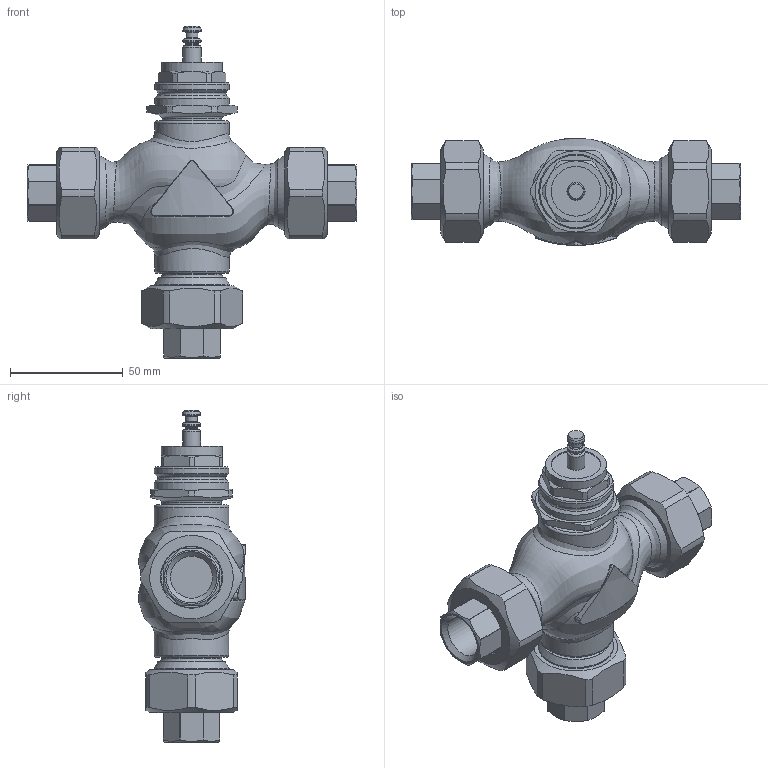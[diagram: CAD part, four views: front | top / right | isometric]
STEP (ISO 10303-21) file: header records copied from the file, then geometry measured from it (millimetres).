
FILE_DESCRIPTION(/* description */ (''),/* implementation_level */ '2;1');
FILE_NAME(/* name */ 'rv111s_dn15_3_T.stp',/* time_stamp */ '2012-02-28T10:24:51+01:00',/* author */ ('KLIMES'),/* organization */ ('LDM'),/* preprocessor_version */ 'ST-DEVELOPER v11',/* originating_system */ 'SIEMENS PLM Software NX 7.0',/* authorisation */ '');
FILE_SCHEMA (('CONFIG_CONTROL_DESIGN'));
Length unit declared in the file: millimetre
Products named in the file (1): klimEAFB3d31
Bounding box: 146 x 47.4 x 147.05 mm (x, y, z)
Volume: 230361.9 mm3; surface area: 54252.3 mm2
Topology: 10 solids, 10 shells, 269 faces, 645 edges, 418 vertices
Faces by surface type: plane 124, cylinder 74, cone 36, bspline 22, torus 13
Full cylindrical faces by diameter (mm): 5.3 x1, 5.5 x1, 8 x3, 18.631 x3, 21 x3, 21.5 x3, 22 x1, 26.5 x2, 27 x4, 27.5 x3, 30 x6, 30.291 x3, 33 x4, 33.249 x3
Entity records: 12972 total; most frequent: CARTESIAN_POINT 7343, DIRECTION 1130, ORIENTED_EDGE 1034, EDGE_CURVE 517, AXIS2_PLACEMENT_3D 493, EDGE_LOOP 395, VERTEX_POINT 376, ADVANCED_FACE 269
